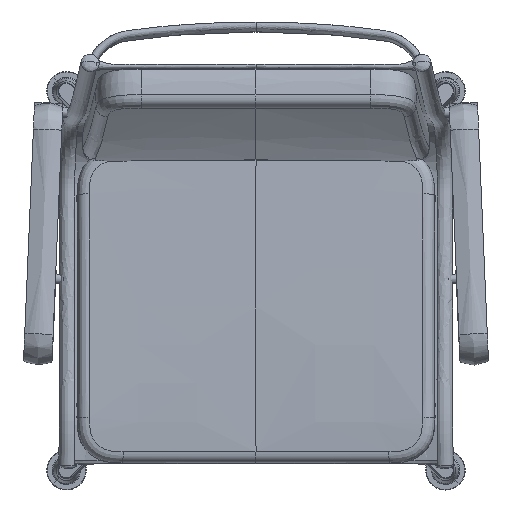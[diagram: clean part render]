
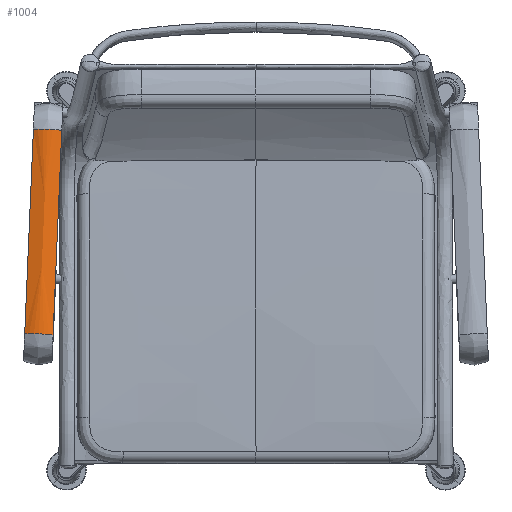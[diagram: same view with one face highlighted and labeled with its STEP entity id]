
A CAD part, top view. The second image highlights one B-rep face of the part: STEP entity #1004.
In plain terms, the highlighted free-form (B-spline) face has degree [2, 3] with [3, 4] control points.
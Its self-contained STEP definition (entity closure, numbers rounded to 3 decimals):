
#284=(
BOUNDED_CURVE()
B_SPLINE_CURVE(2,(#16289,#16290,#16291),.UNSPECIFIED.,.F.,.F.)
B_SPLINE_CURVE_WITH_KNOTS((3,3),(0.,37.482),.UNSPECIFIED.)
CURVE()
GEOMETRIC_REPRESENTATION_ITEM()
RATIONAL_B_SPLINE_CURVE((1.,0.882,1.))
REPRESENTATION_ITEM('')
);
#286=(
BOUNDED_CURVE()
B_SPLINE_CURVE(3,(#16303,#16304,#16305,#16306),.UNSPECIFIED.,.F.,.F.)
B_SPLINE_CURVE_WITH_KNOTS((4,4),(0.,260.717),.UNSPECIFIED.)
CURVE()
GEOMETRIC_REPRESENTATION_ITEM()
RATIONAL_B_SPLINE_CURVE((1.,1.,1.,1.))
REPRESENTATION_ITEM('')
);
#287=(
BOUNDED_CURVE()
B_SPLINE_CURVE(2,(#16307,#16308,#16309),.UNSPECIFIED.,.F.,.F.)
B_SPLINE_CURVE_WITH_KNOTS((3,3),(0.,37.482),.UNSPECIFIED.)
CURVE()
GEOMETRIC_REPRESENTATION_ITEM()
RATIONAL_B_SPLINE_CURVE((1.,0.882,1.))
REPRESENTATION_ITEM('')
);
#288=(
BOUNDED_CURVE()
B_SPLINE_CURVE(3,(#16310,#16311,#16312,#16313),.UNSPECIFIED.,.F.,.F.)
B_SPLINE_CURVE_WITH_KNOTS((4,4),(-260.717,0.),.UNSPECIFIED.)
CURVE()
GEOMETRIC_REPRESENTATION_ITEM()
RATIONAL_B_SPLINE_CURVE((1.,1.,1.,1.))
REPRESENTATION_ITEM('')
);
#690=(
BOUNDED_SURFACE()
B_SPLINE_SURFACE(2,3,((#15793,#15794,#15795,#15796),(#15797,#15798,#15799,
#15800),(#15801,#15802,#15803,#15804)),.UNSPECIFIED.,.F.,.F.,.F.)
B_SPLINE_SURFACE_WITH_KNOTS((3,3),(4,4),(0.,37.482),(0.,260.717),
 .UNSPECIFIED.)
GEOMETRIC_REPRESENTATION_ITEM()
RATIONAL_B_SPLINE_SURFACE(((1.,1.,1.,1.),(0.882,0.882,
0.882,0.882),(1.,1.,1.,1.)))
REPRESENTATION_ITEM('')
SURFACE()
);
#1004=ADVANCED_FACE('',(#1409),#690,.T.);
#1409=FACE_OUTER_BOUND('',#1817,.T.);
#1817=EDGE_LOOP('',(#2619,#2620,#2621,#2622));
#2619=ORIENTED_EDGE('',*,*,#4196,.T.);
#2620=ORIENTED_EDGE('',*,*,#4200,.F.);
#2621=ORIENTED_EDGE('',*,*,#4199,.F.);
#2622=ORIENTED_EDGE('',*,*,#4198,.F.);
#4196=EDGE_CURVE('',#5549,#5550,#284,.T.);
#4198=EDGE_CURVE('',#5549,#5551,#286,.T.);
#4199=EDGE_CURVE('',#5551,#5552,#287,.T.);
#4200=EDGE_CURVE('',#5552,#5550,#288,.T.);
#5549=VERTEX_POINT('',#16061);
#5550=VERTEX_POINT('',#16062);
#5551=VERTEX_POINT('',#16063);
#5552=VERTEX_POINT('',#16064);
#15793=CARTESIAN_POINT('',(-293.384,-68.132,687.235));
#15794=CARTESIAN_POINT('',(-289.712,18.366,679.67));
#15795=CARTESIAN_POINT('',(-286.041,104.864,672.105));
#15796=CARTESIAN_POINT('',(-282.369,191.362,664.541));
#15797=CARTESIAN_POINT('',(-275.382,-68.057,696.832));
#15798=CARTESIAN_POINT('',(-271.711,18.441,689.267));
#15799=CARTESIAN_POINT('',(-268.039,104.939,681.702));
#15800=CARTESIAN_POINT('',(-264.367,191.437,674.137));
#15801=CARTESIAN_POINT('',(-257.416,-69.653,687.301));
#15802=CARTESIAN_POINT('',(-253.744,16.845,679.737));
#15803=CARTESIAN_POINT('',(-250.073,103.343,672.172));
#15804=CARTESIAN_POINT('',(-246.401,189.841,664.607));
#16061=CARTESIAN_POINT('',(-293.384,-68.132,687.235));
#16062=CARTESIAN_POINT('',(-257.416,-69.653,687.301));
#16063=CARTESIAN_POINT('',(-282.369,191.362,664.541));
#16064=CARTESIAN_POINT('',(-246.401,189.841,664.607));
#16289=CARTESIAN_POINT('',(-293.384,-68.132,687.235));
#16290=CARTESIAN_POINT('',(-275.382,-68.057,696.832));
#16291=CARTESIAN_POINT('',(-257.416,-69.653,687.301));
#16303=CARTESIAN_POINT('',(-293.384,-68.132,687.235));
#16304=CARTESIAN_POINT('',(-289.712,18.366,679.67));
#16305=CARTESIAN_POINT('',(-286.041,104.864,672.105));
#16306=CARTESIAN_POINT('',(-282.369,191.362,664.541));
#16307=CARTESIAN_POINT('',(-282.369,191.362,664.541));
#16308=CARTESIAN_POINT('',(-264.367,191.437,674.137));
#16309=CARTESIAN_POINT('',(-246.401,189.841,664.607));
#16310=CARTESIAN_POINT('',(-246.401,189.841,664.607));
#16311=CARTESIAN_POINT('',(-250.073,103.343,672.172));
#16312=CARTESIAN_POINT('',(-253.744,16.845,679.737));
#16313=CARTESIAN_POINT('',(-257.416,-69.653,687.301));
